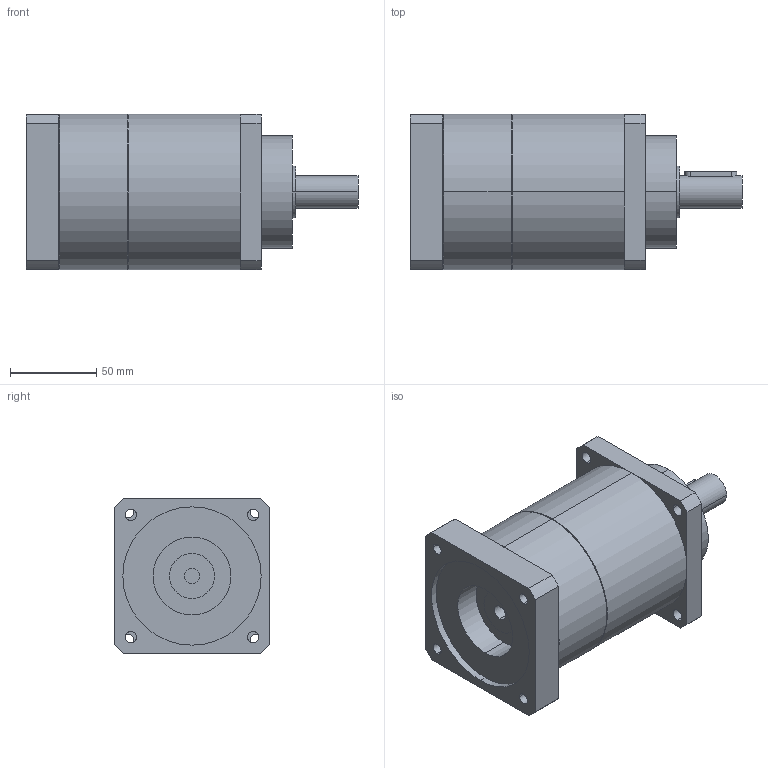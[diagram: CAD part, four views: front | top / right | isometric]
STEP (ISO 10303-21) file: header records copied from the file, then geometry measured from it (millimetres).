
FILE_DESCRIPTION(('CoCreate Modeling STEP Export'),'2;1');
FILE_NAME('GPT90_ig-9-12-16-20-25-28-35-40-50-70-100_19_B5T_9_P34.stp','2015-02-04T11:34:03',(''),(''),'CoCreate Modeling STEP processor for AP214 (Solid Model)','CoCreate Modeling 16.00C 25-Feb-2009 (C) Parametric Technology GmbH','');
FILE_SCHEMA(('AUTOMOTIVE_DESIGN { 1 0 10303 214 1 1 1 1 }'));
Length unit declared in the file: millimetre
Products named in the file (2): GPT90_ig-9-12-16-20-25-28-35-40-50-70-100_19_B5T_9_P34
Assembly tree (1 placements, depth 2):
  GPT90_ig-9-12-16-20-25-28-35-40-50-70-100_19_B5T_9_P34
    GPT90_ig-9-12-16-20-25-28-35-40-50-70-100_19_B5T_9_P34
Bounding box: 192 x 90 x 90 mm (x, y, z)
Volume: 939722.6 mm3; surface area: 73220.3 mm2
Topology: 1 solids, 1 shells, 77 faces, 206 edges, 141 vertices
Faces by surface type: cylinder 46, plane 27, cone 4
Entity records: 2596 total; most frequent: CARTESIAN_POINT 742, ORIENTED_EDGE 412, DIRECTION 324, EDGE_CURVE 206, VERTEX_POINT 141, AXIS2_PLACEMENT_3D 120, EDGE_LOOP 103, VECTOR 84
